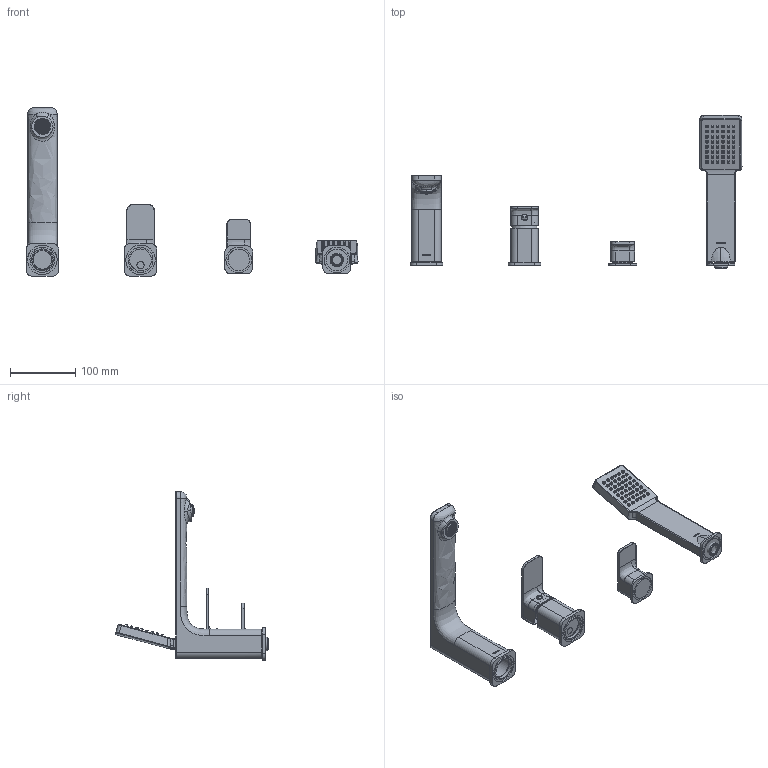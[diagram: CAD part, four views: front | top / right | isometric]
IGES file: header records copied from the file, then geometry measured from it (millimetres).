
Global section: file name: 0f0a465f-e7bd-4e90-bc4a-04df2a9c198e; native system: unknown; preprocessor: unknown; author: unknown; organization: unknown; date: 20191213.221257; units: millimetre
Bounding box: 507.25 x 234.28 x 257.5 mm (x, y, z)
Volume: 516349 mm3; surface area: 213880.1 mm2
Topology: 30 solids, 40 shells, 3845 faces, 11607 edges, 7638 vertices
Faces by surface type: bspline 3845
